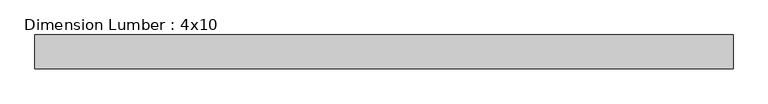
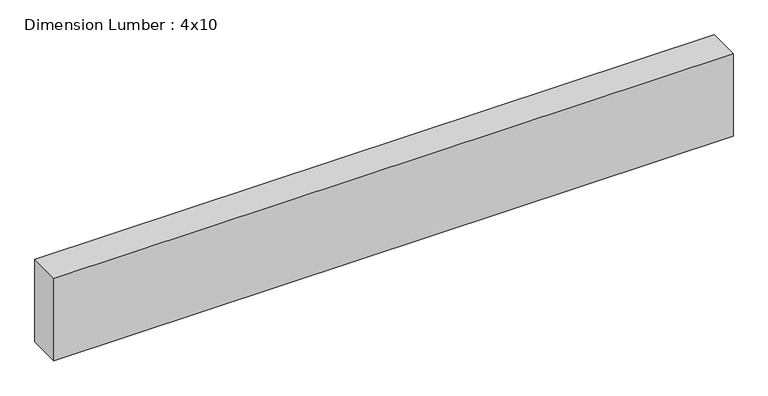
"""IFC4 building model written with IfcOpenShell, lengths in millimetres: beam geometry, Dimension Lumber : 4x10."""

from ifc_helpers import new_model, si_unit, frame, origin, place, context, project, spatial, polyline, outline, extrude, source, transform, mapped, element, save


def dimension_lumber_4x10_0ece3ab8(model_context):
    return source(origin(), model_context, "Body", "SweptSolid", [
        extrude(outline(polyline([(914.4, 44.45), (914.4, -44.45), (-914.4, -44.45), (-914.4, 44.45), (914.4, 44.45)])), frame((0.0, 0.0, -117.475), z_axis=(0.0, 0.0, 1.0), x_axis=(1.0, 0.0, 0.0)), (0.0, 0.0, 1.0), 234.95),
    ])


if __name__ == "__main__":
    model = new_model("IFC4")
    model_context = context("Model", 3, world=origin())
    ifc_project = project(units=[si_unit("LENGTHUNIT", "METRE", prefix="MILLI")], contexts=[model_context])
    site = spatial("IfcSite", under=ifc_project)
    building = spatial("IfcBuilding", under=site)
    placement = place(None, origin())
    dimension_lumber_4x10_shape = dimension_lumber_4x10_0ece3ab8(model_context)
    element("IfcBeam", 1, ObjectType="Dimension Lumber : 4x10", at=placement, inside=building, context=model_context, shape_type="MappedRepresentation", body=[
        mapped(dimension_lumber_4x10_shape, transform((0.0, 0.0, 0.0), x_axis=(1.0, 0.0, 0.0), y_axis=(0.0, 1.0, 0.0), z_axis=(0.0, 0.0, 1.0))),
    ])
    save(model, "model.ifc")
